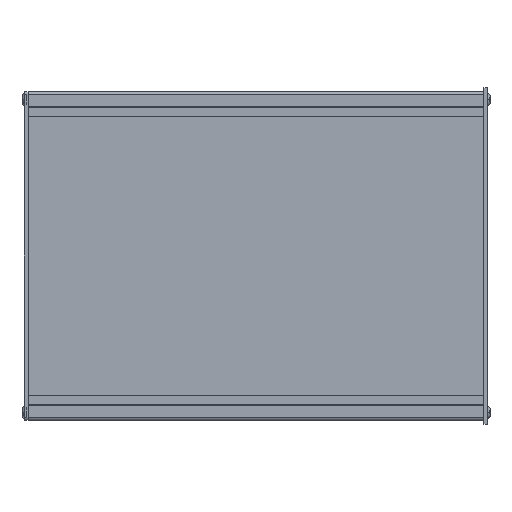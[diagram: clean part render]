
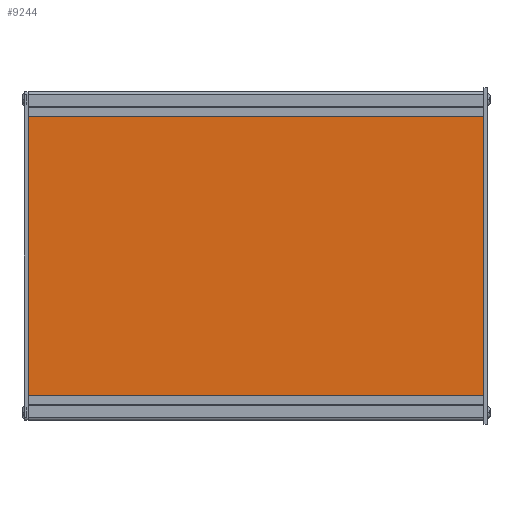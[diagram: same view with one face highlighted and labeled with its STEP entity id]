
A CAD part, left-side view. The second image highlights one B-rep face of the part: STEP entity #9244.
In plain terms, the highlighted planar face has unit normal (-1, 0, 0).
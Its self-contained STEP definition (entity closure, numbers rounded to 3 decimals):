
#1012=PLANE('',#10134);
#1308=FACE_OUTER_BOUND('',#1874,.T.);
#1874=EDGE_LOOP('',(#7037,#7038,#7039,#7040));
#2734=LINE('',#14578,#3444);
#2744=LINE('',#14599,#3454);
#2745=LINE('',#14601,#3455);
#2746=LINE('',#14602,#3456);
#3444=VECTOR('',#11668,10.);
#3454=VECTOR('',#11686,10.);
#3455=VECTOR('',#11687,10.);
#3456=VECTOR('',#11688,10.);
#4530=VERTEX_POINT('',#14571);
#4533=VERTEX_POINT('',#14576);
#4540=VERTEX_POINT('',#14598);
#4541=VERTEX_POINT('',#14600);
#5437=EDGE_CURVE('',#4530,#4533,#2734,.T.);
#5447=EDGE_CURVE('',#4530,#4540,#2744,.T.);
#5448=EDGE_CURVE('',#4541,#4533,#2745,.T.);
#5449=EDGE_CURVE('',#4540,#4541,#2746,.T.);
#7037=ORIENTED_EDGE('',*,*,#5447,.F.);
#7038=ORIENTED_EDGE('',*,*,#5437,.T.);
#7039=ORIENTED_EDGE('',*,*,#5448,.F.);
#7040=ORIENTED_EDGE('',*,*,#5449,.F.);
#9244=ADVANCED_FACE('',(#1308),#1012,.T.);
#10134=AXIS2_PLACEMENT_3D('',#14597,#11684,#11685);
#11668=DIRECTION('',(0.,1.,0.));
#11684=DIRECTION('center_axis',(-1.,0.,0.));
#11685=DIRECTION('ref_axis',(0.,0.,1.));
#11686=DIRECTION('',(0.,0.,-1.));
#11687=DIRECTION('',(0.,0.,1.));
#11688=DIRECTION('',(0.,1.,0.));
#14571=CARTESIAN_POINT('',(239.,0.,48.));
#14576=CARTESIAN_POINT('',(239.,300.,48.));
#14578=CARTESIAN_POINT('',(239.,0.,48.));
#14597=CARTESIAN_POINT('Origin',(239.,0.,-136.1));
#14598=CARTESIAN_POINT('',(239.,0.,-136.1));
#14599=CARTESIAN_POINT('',(239.,0.,-44.05));
#14600=CARTESIAN_POINT('',(239.,300.,-136.1));
#14601=CARTESIAN_POINT('',(239.,300.,-44.05));
#14602=CARTESIAN_POINT('',(239.,0.,-136.1));
